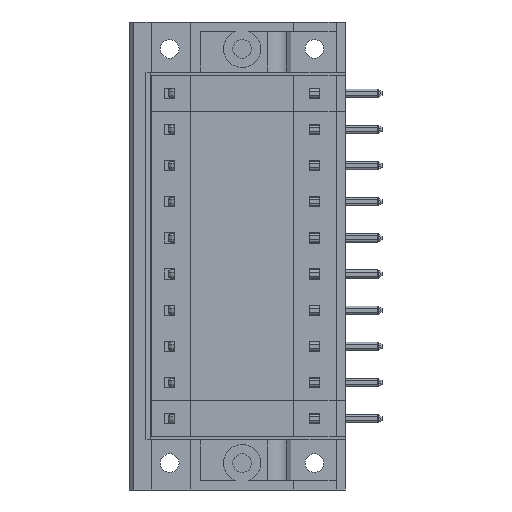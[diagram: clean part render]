
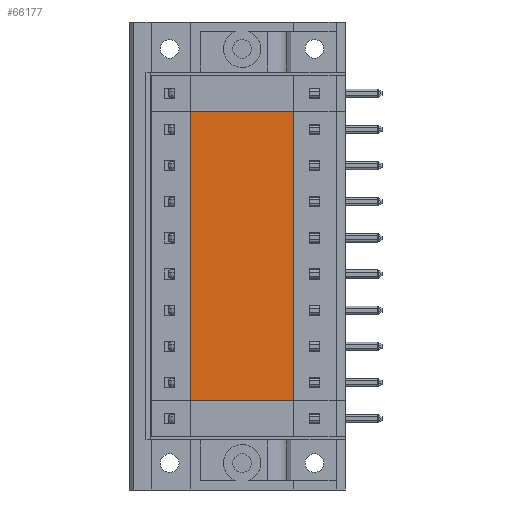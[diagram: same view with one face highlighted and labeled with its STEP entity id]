
A CAD part, left-side view. The second image highlights one B-rep face of the part: STEP entity #66177.
In plain terms, the highlighted planar face has unit normal (-1, 0, 0).
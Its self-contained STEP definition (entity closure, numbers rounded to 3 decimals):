
#345 = ORIENTED_EDGE ( 'NONE', *, *, #17684, .T. ) ;
#9323 = VERTEX_POINT ( 'NONE', #61658 ) ;
#9496 = DIRECTION ( 'NONE',  ( 0., 1., 0. ) ) ;
#12482 = ORIENTED_EDGE ( 'NONE', *, *, #58953, .F. ) ;
#16283 = DIRECTION ( 'NONE',  ( 0., -1., 0. ) ) ;
#16713 = AXIS2_PLACEMENT_3D ( 'NONE', #59691, #59451, #16283 ) ;
#17595 = LINE ( 'NONE', #30762, #55186 ) ;
#17684 = EDGE_CURVE ( 'NONE', #9323, #43653, #56920, .T. ) ;
#18109 = LINE ( 'NONE', #63616, #35257 ) ;
#21936 = VECTOR ( 'NONE', #32024, 1000. ) ;
#22227 = PLANE ( 'NONE',  #16713 ) ;
#23944 = VERTEX_POINT ( 'NONE', #36922 ) ;
#25594 = CARTESIAN_POINT ( 'NONE',  ( -21.704, 5., -40.15 ) ) ;
#26337 = DIRECTION ( 'NONE',  ( 0., 0., 1. ) ) ;
#26440 = DIRECTION ( 'NONE',  ( 0., 1., 0. ) ) ;
#30654 = EDGE_LOOP ( 'NONE', ( #43815, #12482, #345, #56938 ) ) ;
#30762 = CARTESIAN_POINT ( 'NONE',  ( -21.704, 15., -8.65 ) ) ;
#31957 = CARTESIAN_POINT ( 'NONE',  ( -21.704, 15., -36.65 ) ) ;
#32024 = DIRECTION ( 'NONE',  ( 0., 0., 1. ) ) ;
#32135 = FACE_OUTER_BOUND ( 'NONE', #30654, .T. ) ;
#35257 = VECTOR ( 'NONE', #26337, 1000. ) ;
#36922 = CARTESIAN_POINT ( 'NONE',  ( -21.704, 15., -8.65 ) ) ;
#43653 = VERTEX_POINT ( 'NONE', #47191 ) ;
#43815 = ORIENTED_EDGE ( 'NONE', *, *, #51163, .F. ) ;
#47191 = CARTESIAN_POINT ( 'NONE',  ( -21.704, 5., -8.65 ) ) ;
#50499 = CARTESIAN_POINT ( 'NONE',  ( -21.704, 15., -36.65 ) ) ;
#51163 = EDGE_CURVE ( 'NONE', #58028, #23944, #18109, .T. ) ;
#55186 = VECTOR ( 'NONE', #9496, 1000. ) ;
#56661 = EDGE_CURVE ( 'NONE', #43653, #23944, #17595, .T. ) ;
#56920 = LINE ( 'NONE', #25594, #21936 ) ;
#56938 = ORIENTED_EDGE ( 'NONE', *, *, #56661, .T. ) ;
#57449 = LINE ( 'NONE', #31957, #63504 ) ;
#58028 = VERTEX_POINT ( 'NONE', #50499 ) ;
#58953 = EDGE_CURVE ( 'NONE', #9323, #58028, #57449, .T. ) ;
#59451 = DIRECTION ( 'NONE',  ( 1., 0., 0. ) ) ;
#59691 = CARTESIAN_POINT ( 'NONE',  ( -21.704, 15., -40.15 ) ) ;
#61658 = CARTESIAN_POINT ( 'NONE',  ( -21.704, 5., -36.65 ) ) ;
#63504 = VECTOR ( 'NONE', #26440, 1000. ) ;
#63616 = CARTESIAN_POINT ( 'NONE',  ( -21.704, 15., -40.15 ) ) ;
#66177 = ADVANCED_FACE ( 'NONE', ( #32135 ), #22227, .F. ) ;
